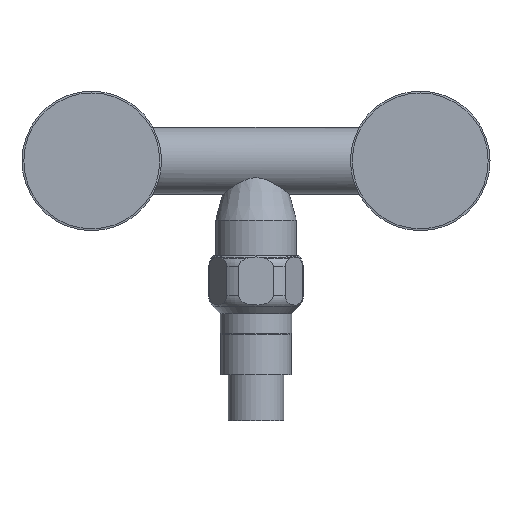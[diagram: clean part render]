
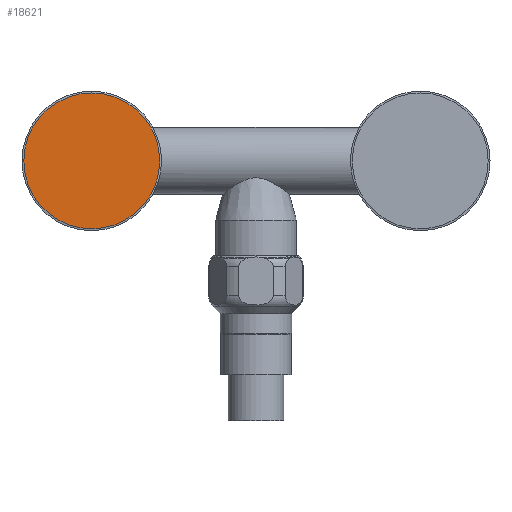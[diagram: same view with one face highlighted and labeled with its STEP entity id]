
A CAD part, front view. The second image highlights one B-rep face of the part: STEP entity #18621.
In plain terms, the highlighted planar face has unit normal (0, -1, 0).
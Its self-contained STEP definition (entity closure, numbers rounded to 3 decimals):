
#17720=CARTESIAN_POINT('',(-76.5,-44.7,0.));
#17721=DIRECTION('',(0.,-1.,0.));
#17722=DIRECTION('',(1.,0.,0.));
#17723=AXIS2_PLACEMENT_3D('',#17720,#17721,#17722);
#17733=CARTESIAN_POINT('',(-76.5,-44.7,0.));
#17734=DIRECTION('',(0.,1.,0.));
#17735=DIRECTION('',(1.,0.,0.));
#17736=AXIS2_PLACEMENT_3D('',#17733,#17734,#17735);
#17883=CARTESIAN_POINT('',(-44.851,-44.7,0.));
#17885=VERTEX_POINT('',#17883);
#17887=CARTESIAN_POINT('',(-108.149,-44.7,0.));
#17889=VERTEX_POINT('',#17887);
#18612=CARTESIAN_POINT('',(-76.5,-44.7,0.));
#18613=DIRECTION('',(0.,-1.,0.));
#18614=DIRECTION('',(-1.,0.,0.));
#18615=AXIS2_PLACEMENT_3D('',#18612,#18613,#18614);
#18616=PLANE('',#18615);
#18617=ORIENTED_EDGE('',*,*,#18567,.F.);
#18618=ORIENTED_EDGE('',*,*,#18595,.T.);
#18619=EDGE_LOOP('',(#18617,#18618));
#18620=FACE_OUTER_BOUND('',#18619,.F.);
#17724=CIRCLE('',#17723,31.649);
#17737=CIRCLE('',#17736,31.649);
#18567=EDGE_CURVE('',#17885,#17889,#17724,.T.);
#18595=EDGE_CURVE('',#17885,#17889,#17737,.T.);
#18621=ADVANCED_FACE('',(#18620),#18616,.T.);
